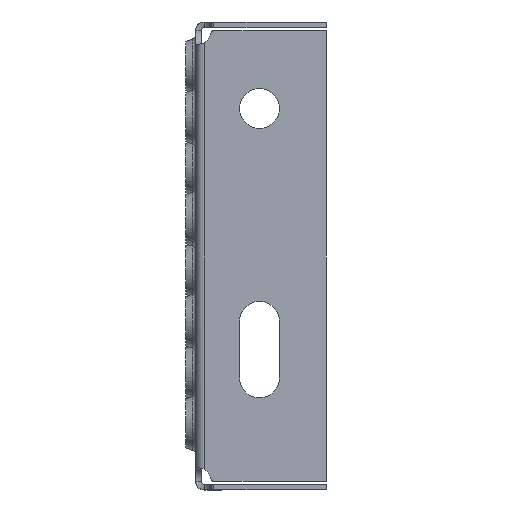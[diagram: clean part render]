
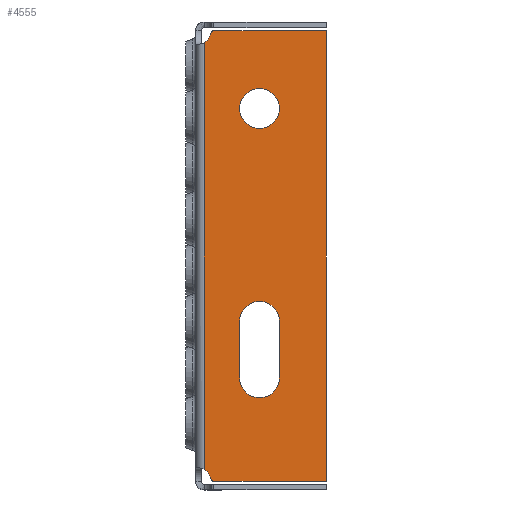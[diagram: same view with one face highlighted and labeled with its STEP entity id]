
A CAD part, left-side view. The second image highlights one B-rep face of the part: STEP entity #4555.
In plain terms, the highlighted planar face has unit normal (-1, 0, 0).
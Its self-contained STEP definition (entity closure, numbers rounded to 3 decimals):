
#25 = CARTESIAN_POINT ( 'NONE',  ( -200., -46., -79.5 ) ) ;
#123 = DIRECTION ( 'NONE',  ( 0., 0., -1. ) ) ;
#551 = CARTESIAN_POINT ( 'NONE',  ( -200., -15.5, -43. ) ) ;
#632 = CIRCLE ( 'NONE', #4294, 1. ) ;
#754 = CARTESIAN_POINT ( 'NONE',  ( -200., -6.416, -79.5 ) ) ;
#835 = ORIENTED_EDGE ( 'NONE', *, *, #6095, .T. ) ;
#1126 = VERTEX_POINT ( 'NONE', #15100 ) ;
#1187 = DIRECTION ( 'NONE',  ( 0., 0., 1. ) ) ;
#1367 = FACE_OUTER_BOUND ( 'NONE', #7542, .T. ) ;
#1394 = CARTESIAN_POINT ( 'NONE',  ( -200., -5.43, -78.667 ) ) ;
#1842 = DIRECTION ( 'NONE',  ( 1., 0., 0. ) ) ;
#1918 = VERTEX_POINT ( 'NONE', #11416 ) ;
#2165 = DIRECTION ( 'NONE',  ( 0., 0., -1. ) ) ;
#2272 = VERTEX_POINT ( 'NONE', #551 ) ;
#3073 = CARTESIAN_POINT ( 'NONE',  ( -200., -22.5, -43. ) ) ;
#3189 = EDGE_CURVE ( 'NONE', #1126, #10113, #7338, .T. ) ;
#3208 = CARTESIAN_POINT ( 'NONE',  ( -200., -22.5, 45. ) ) ;
#3554 = CARTESIAN_POINT ( 'NONE',  ( -200., -15.5, -23. ) ) ;
#3620 = CIRCLE ( 'NONE', #6282, 7. ) ;
#3755 = CIRCLE ( 'NONE', #12610, 7. ) ;
#3886 = CARTESIAN_POINT ( 'NONE',  ( -200., -3., -75.17 ) ) ;
#3993 = LINE ( 'NONE', #11365, #7866 ) ;
#3997 = CIRCLE ( 'NONE', #12144, 1. ) ;
#4134 = VERTEX_POINT ( 'NONE', #4941 ) ;
#4266 = CARTESIAN_POINT ( 'NONE',  ( -200., -22.5, 52. ) ) ;
#4294 = AXIS2_PLACEMENT_3D ( 'NONE', #5387, #15567, #6846 ) ;
#4443 = CARTESIAN_POINT ( 'NONE',  ( -200., -6.416, 79.5 ) ) ;
#4469 = CARTESIAN_POINT ( 'NONE',  ( -200., 0.5, -85.416 ) ) ;
#4533 = DIRECTION ( 'NONE',  ( 0., 0., -1. ) ) ;
#4536 = DIRECTION ( 'NONE',  ( 1., 0., 0. ) ) ;
#4555 = ADVANCED_FACE ( 'NONE', ( #1367, #16408, #9097 ), #16132, .F. ) ;
#4941 = CARTESIAN_POINT ( 'NONE',  ( -200., -5.43, 78.667 ) ) ;
#5035 = VERTEX_POINT ( 'NONE', #14368 ) ;
#5213 = CARTESIAN_POINT ( 'NONE',  ( -200., -29.5, -43. ) ) ;
#5387 = CARTESIAN_POINT ( 'NONE',  ( -200., -6.416, -78.5 ) ) ;
#5504 = CARTESIAN_POINT ( 'NONE',  ( -200., -3., -85.416 ) ) ;
#5628 = DIRECTION ( 'NONE',  ( -1., 0., 0. ) ) ;
#5744 = DIRECTION ( 'NONE',  ( 0., 0., -1. ) ) ;
#5773 = CARTESIAN_POINT ( 'NONE',  ( -200., -0.5, 79.5 ) ) ;
#6051 = CIRCLE ( 'NONE', #6919, 7. ) ;
#6095 = EDGE_CURVE ( 'NONE', #5035, #1918, #13584, .T. ) ;
#6174 = ORIENTED_EDGE ( 'NONE', *, *, #9494, .F. ) ;
#6179 = EDGE_CURVE ( 'NONE', #16249, #5035, #632, .T. ) ;
#6282 = AXIS2_PLACEMENT_3D ( 'NONE', #17566, #8828, #123 ) ;
#6846 = DIRECTION ( 'NONE',  ( 0., 0., -1. ) ) ;
#6919 = AXIS2_PLACEMENT_3D ( 'NONE', #3073, #13228, #4533 ) ;
#7234 = DIRECTION ( 'NONE',  ( 0., 0., -1. ) ) ;
#7325 = CARTESIAN_POINT ( 'NONE',  ( -200., -46., 79.5 ) ) ;
#7338 = LINE ( 'NONE', #7325, #15066 ) ;
#7542 = EDGE_LOOP ( 'NONE', ( #18756, #8997, #12345, #835, #16611, #16999, #9314, #9792 ) ) ;
#7562 = EDGE_CURVE ( 'NONE', #9675, #11141, #3620, .T. ) ;
#7866 = VECTOR ( 'NONE', #1187, 1000. ) ;
#8090 = VERTEX_POINT ( 'NONE', #12756 ) ;
#8595 = EDGE_CURVE ( 'NONE', #17409, #9675, #3993, .T. ) ;
#8698 = EDGE_CURVE ( 'NONE', #4134, #8090, #18357, .T. ) ;
#8828 = DIRECTION ( 'NONE',  ( -1., 0., 0. ) ) ;
#8997 = ORIENTED_EDGE ( 'NONE', *, *, #17836, .T. ) ;
#9097 = FACE_BOUND ( 'NONE', #11445, .T. ) ;
#9314 = ORIENTED_EDGE ( 'NONE', *, *, #9324, .T. ) ;
#9324 = EDGE_CURVE ( 'NONE', #10113, #4134, #3997, .T. ) ;
#9494 = EDGE_CURVE ( 'NONE', #2272, #17409, #6051, .T. ) ;
#9651 = EDGE_LOOP ( 'NONE', ( #11849 ) ) ;
#9675 = VERTEX_POINT ( 'NONE', #15084 ) ;
#9792 = ORIENTED_EDGE ( 'NONE', *, *, #8698, .T. ) ;
#9835 = ORIENTED_EDGE ( 'NONE', *, *, #8595, .F. ) ;
#9872 = VERTEX_POINT ( 'NONE', #3886 ) ;
#10113 = VERTEX_POINT ( 'NONE', #4443 ) ;
#10178 = VECTOR ( 'NONE', #16799, 1000. ) ;
#10202 = DIRECTION ( 'NONE',  ( 0., 0., 1. ) ) ;
#10545 = CARTESIAN_POINT ( 'NONE',  ( -200., -0.5, -79.5 ) ) ;
#10975 = CARTESIAN_POINT ( 'NONE',  ( -200., -15.5, -23. ) ) ;
#11038 = ORIENTED_EDGE ( 'NONE', *, *, #7562, .F. ) ;
#11127 = LINE ( 'NONE', #25, #14988 ) ;
#11141 = VERTEX_POINT ( 'NONE', #10975 ) ;
#11326 = LINE ( 'NONE', #3554, #11774 ) ;
#11365 = CARTESIAN_POINT ( 'NONE',  ( -200., -29.5, -23. ) ) ;
#11416 = CARTESIAN_POINT ( 'NONE',  ( -200., -46., -79.5 ) ) ;
#11445 = EDGE_LOOP ( 'NONE', ( #16614, #11038, #9835, #6174 ) ) ;
#11774 = VECTOR ( 'NONE', #2165, 1000. ) ;
#11849 = ORIENTED_EDGE ( 'NONE', *, *, #15550, .F. ) ;
#12000 = DIRECTION ( 'NONE',  ( 0., 0., -1. ) ) ;
#12144 = AXIS2_PLACEMENT_3D ( 'NONE', #14309, #5628, #15803 ) ;
#12345 = ORIENTED_EDGE ( 'NONE', *, *, #6179, .T. ) ;
#12610 = AXIS2_PLACEMENT_3D ( 'NONE', #4266, #14431, #5744 ) ;
#12756 = CARTESIAN_POINT ( 'NONE',  ( -200., -3., 75.17 ) ) ;
#13022 = AXIS2_PLACEMENT_3D ( 'NONE', #4469, #4536, #14691 ) ;
#13094 = EDGE_CURVE ( 'NONE', #9872, #8090, #17300, .T. ) ;
#13228 = DIRECTION ( 'NONE',  ( -1., 0., 0. ) ) ;
#13254 = EDGE_CURVE ( 'NONE', #1918, #1126, #11127, .T. ) ;
#13584 = LINE ( 'NONE', #754, #10178 ) ;
#13834 = VECTOR ( 'NONE', #14191, 1000. ) ;
#14191 = DIRECTION ( 'NONE',  ( 0., 0., 1. ) ) ;
#14309 = CARTESIAN_POINT ( 'NONE',  ( -200., -6.416, 78.5 ) ) ;
#14368 = CARTESIAN_POINT ( 'NONE',  ( -200., -6.416, -79.5 ) ) ;
#14431 = DIRECTION ( 'NONE',  ( -1., 0., 0. ) ) ;
#14629 = EDGE_CURVE ( 'NONE', #11141, #2272, #11326, .T. ) ;
#14691 = DIRECTION ( 'NONE',  ( 0., 0., -1. ) ) ;
#14988 = VECTOR ( 'NONE', #10202, 1000. ) ;
#15066 = VECTOR ( 'NONE', #16050, 1000. ) ;
#15084 = CARTESIAN_POINT ( 'NONE',  ( -200., -29.5, -23. ) ) ;
#15100 = CARTESIAN_POINT ( 'NONE',  ( -200., -46., 79.5 ) ) ;
#15199 = AXIS2_PLACEMENT_3D ( 'NONE', #5773, #15958, #7234 ) ;
#15550 = EDGE_CURVE ( 'NONE', #16785, #16785, #3755, .T. ) ;
#15567 = DIRECTION ( 'NONE',  ( -1., 0., 0. ) ) ;
#15734 = CIRCLE ( 'NONE', #18388, 5. ) ;
#15803 = DIRECTION ( 'NONE',  ( 0., 0., 1. ) ) ;
#15958 = DIRECTION ( 'NONE',  ( 1., 0., 0. ) ) ;
#16050 = DIRECTION ( 'NONE',  ( 0., 1., 0. ) ) ;
#16132 = PLANE ( 'NONE',  #13022 ) ;
#16249 = VERTEX_POINT ( 'NONE', #1394 ) ;
#16408 = FACE_BOUND ( 'NONE', #9651, .T. ) ;
#16611 = ORIENTED_EDGE ( 'NONE', *, *, #13254, .T. ) ;
#16614 = ORIENTED_EDGE ( 'NONE', *, *, #14629, .F. ) ;
#16785 = VERTEX_POINT ( 'NONE', #3208 ) ;
#16799 = DIRECTION ( 'NONE',  ( 0., -1., 0. ) ) ;
#16999 = ORIENTED_EDGE ( 'NONE', *, *, #3189, .T. ) ;
#17300 = LINE ( 'NONE', #5504, #13834 ) ;
#17409 = VERTEX_POINT ( 'NONE', #5213 ) ;
#17566 = CARTESIAN_POINT ( 'NONE',  ( -200., -22.5, -23. ) ) ;
#17836 = EDGE_CURVE ( 'NONE', #9872, #16249, #15734, .T. ) ;
#18357 = CIRCLE ( 'NONE', #15199, 5. ) ;
#18388 = AXIS2_PLACEMENT_3D ( 'NONE', #10545, #1842, #12000 ) ;
#18756 = ORIENTED_EDGE ( 'NONE', *, *, #13094, .F. ) ;
